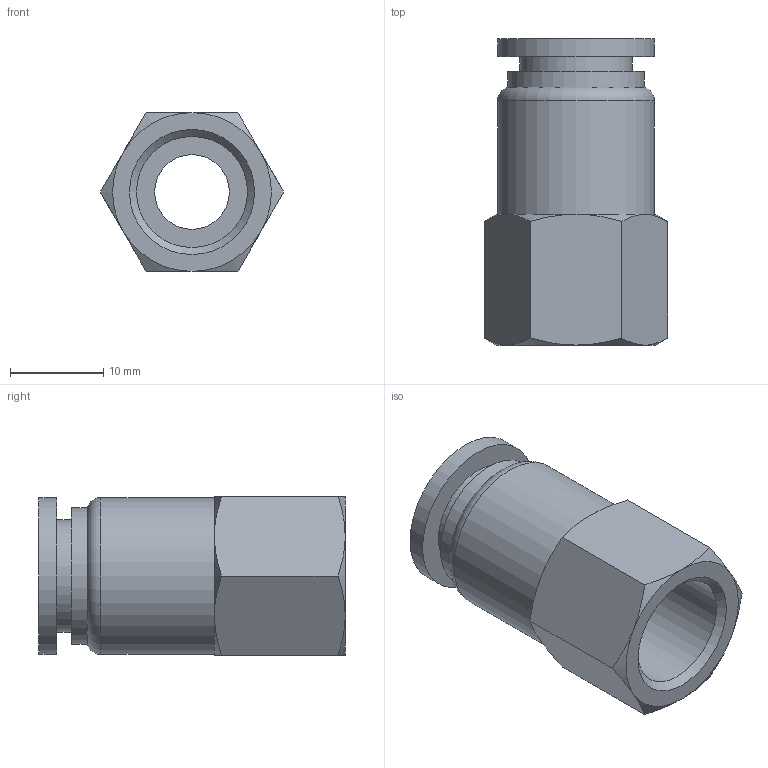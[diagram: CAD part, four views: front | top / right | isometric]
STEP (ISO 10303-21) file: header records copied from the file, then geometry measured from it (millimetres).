
FILE_DESCRIPTION(/* description */ (''),/* implementation_level */ '2;1');
FILE_NAME(/* name */ 'S:\_Tecnico\ArchivioUT\_Disegni3D ingombri\DISEGNI 3D per ingombri\RP\RP 52\RP521410.stp',/* time_stamp */ '2019-07-29T10:30:01+02:00',/* author */ ('ufficiotecnico3'),/* organization */ (''),/* preprocessor_version */ 'ST-DEVELOPER v18',/* originating_system */ 'Autodesk Inventor 2020',/* authorisation */ '');
FILE_SCHEMA (('AUTOMOTIVE_DESIGN { 1 0 10303 214 3 1 1 }'));
Length unit declared in the file: millimetre
Products named in the file (1): RP521410
Bounding box: 19.63 x 32.8 x 17 mm (x, y, z)
Volume: 4479.9 mm3; surface area: 3411 mm2
Topology: 1 solids, 1 shells, 34 faces, 78 edges, 51 vertices
Faces by surface type: cone 13, plane 13, cylinder 7, torus 1
Full cylindrical faces by diameter (mm): 8 x1, 10 x1, 11.89 x1, 12 x1, 14.6 x1, 16.8 x2
Entity records: 999 total; most frequent: CARTESIAN_POINT 212, DIRECTION 164, ORIENTED_EDGE 156, EDGE_CURVE 78, AXIS2_PLACEMENT_3D 75, VERTEX_POINT 51, EDGE_LOOP 41, CIRCLE 40
